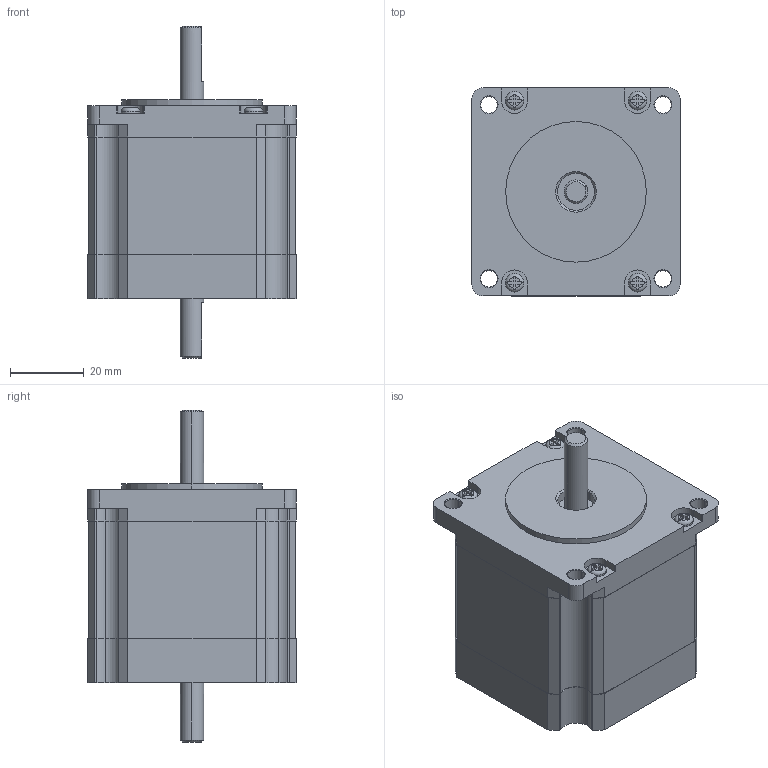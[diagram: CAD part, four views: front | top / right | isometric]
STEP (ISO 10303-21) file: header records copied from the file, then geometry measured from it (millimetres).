
FILE_DESCRIPTION (( 'STEP AP214' ), '1' );
FILE_NAME ('TS3653N12.STEP', '2011-09-15T08:52:56', ( '' ), ( '' ), 'SwSTEP 2.0', 'SolidWorks 2010', '' );
FILE_SCHEMA (( 'AUTOMOTIVE_DESIGN' ));
Length unit declared in the file: millimetre
Products named in the file (1): TS3653N12
Bounding box: 56.4 x 56.4 x 90 mm (x, y, z)
Volume: 153568.3 mm3; surface area: 19226.7 mm2
Topology: 1 solids, 1 shells, 252 faces, 684 edges, 445 vertices
Faces by surface type: plane 141, cylinder 80, cone 23, torus 8
Entity records: 8375 total; most frequent: CARTESIAN_POINT 1554, DIRECTION 1369, ORIENTED_EDGE 1368, EDGE_CURVE 684, AXIS2_PLACEMENT_3D 468, VERTEX_POINT 445, VECTOR 433, LINE 433
